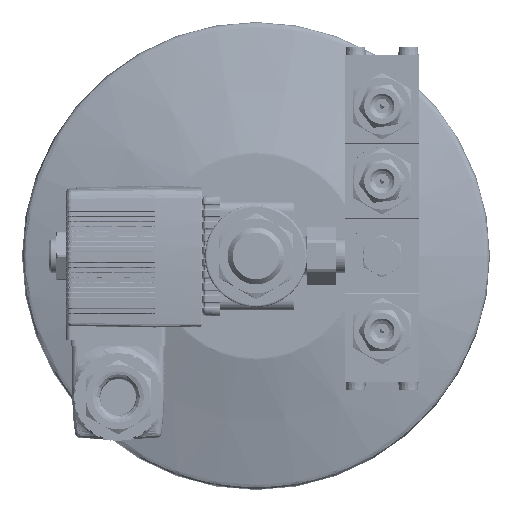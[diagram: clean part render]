
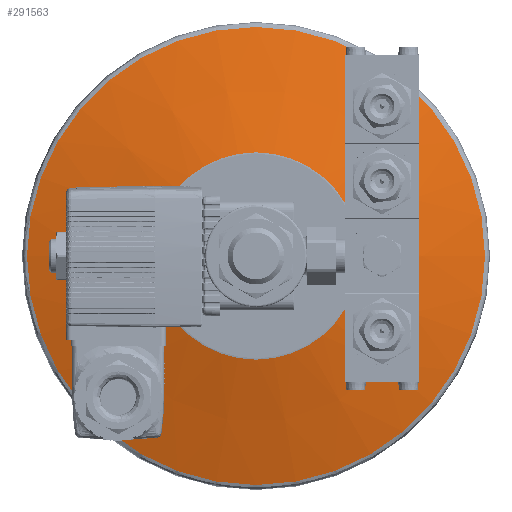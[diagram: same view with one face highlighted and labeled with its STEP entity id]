
A CAD part, left-side view. The second image highlights one B-rep face of the part: STEP entity #291563.
In plain terms, the highlighted conical face has half-angle 75.534 degrees and reference radius 67.225 mm.
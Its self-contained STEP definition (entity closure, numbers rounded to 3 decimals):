
#266 = VERTEX_POINT ( 'NONE', #101132 ) ;
#57527 = AXIS2_PLACEMENT_3D ( 'NONE', #168910, #194888, #95735 ) ;
#67582 = FACE_BOUND ( 'NONE', #235886, .T. ) ;
#83241 = AXIS2_PLACEMENT_3D ( 'NONE', #85655, #266059, #284042 ) ;
#85655 = CARTESIAN_POINT ( 'NONE',  ( 82.948, 0., 0. ) ) ;
#95735 = DIRECTION ( 'NONE',  ( 0., -1., 0. ) ) ;
#101132 = CARTESIAN_POINT ( 'NONE',  ( 73.454, -30.425, 0. ) ) ;
#121542 = DIRECTION ( 'NONE',  ( 0., -1., 0. ) ) ;
#146145 = CONICAL_SURFACE ( 'NONE', #83241, 67.225, 1.318 ) ;
#154857 = EDGE_CURVE ( 'NONE', #244336, #244336, #255182, .T. ) ;
#167939 = CARTESIAN_POINT ( 'NONE',  ( 82.948, -67.225, 0. ) ) ;
#168910 = CARTESIAN_POINT ( 'NONE',  ( 82.948, 0., 0. ) ) ;
#172586 = EDGE_LOOP ( 'NONE', ( #266989 ) ) ;
#191207 = FACE_OUTER_BOUND ( 'NONE', #172586, .T. ) ;
#191933 = ORIENTED_EDGE ( 'NONE', *, *, #201797, .T. ) ;
#194888 = DIRECTION ( 'NONE',  ( -1., 0., 0. ) ) ;
#201797 = EDGE_CURVE ( 'NONE', #266, #266, #317877, .T. ) ;
#235886 = EDGE_LOOP ( 'NONE', ( #191933 ) ) ;
#244336 = VERTEX_POINT ( 'NONE', #167939 ) ;
#252803 = DIRECTION ( 'NONE',  ( 1., 0., 0. ) ) ;
#255182 = CIRCLE ( 'NONE', #57527, 67.225 ) ;
#266059 = DIRECTION ( 'NONE',  ( 1., 0., 0. ) ) ;
#266098 = AXIS2_PLACEMENT_3D ( 'NONE', #319962, #252803, #121542 ) ;
#266989 = ORIENTED_EDGE ( 'NONE', *, *, #154857, .T. ) ;
#284042 = DIRECTION ( 'NONE',  ( 0., 0., -1. ) ) ;
#291563 = ADVANCED_FACE ( 'NONE', ( #191207, #67582 ), #146145, .T. ) ;
#317877 = CIRCLE ( 'NONE', #266098, 30.425 ) ;
#319962 = CARTESIAN_POINT ( 'NONE',  ( 73.454, 0., 0. ) ) ;
